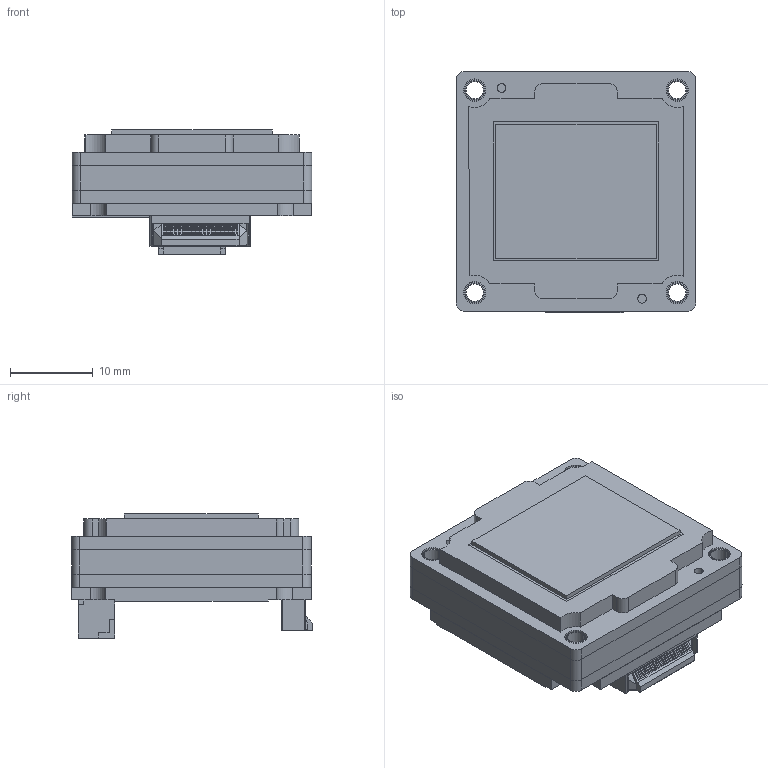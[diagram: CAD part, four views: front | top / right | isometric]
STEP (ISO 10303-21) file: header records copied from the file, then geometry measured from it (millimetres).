
FILE_DESCRIPTION (( 'STEP AP214' ), '1' );
FILE_NAME ('BFS-U3-50S4M(C)-BD2.STEP', '2023-11-27T19:33:09', ( '' ), ( '' ), 'SwSTEP 2.0', 'SolidWorks 2020', '' );
FILE_SCHEMA (( 'AUTOMOTIVE_DESIGN' ));
Length unit declared in the file: millimetre
Products named in the file (1): BFS-U3-50S4M(C)-BD2
Bounding box: 29 x 29.14 x 15.03 mm (x, y, z)
Surface area: 13140.4 mm2 (no closed solid volume)
Topology: 0 solids, 23 shells, 1140 faces, 3072 edges, 2024 vertices
Faces by surface type: plane 886, cylinder 222, cone 24, bspline 8
Entity records: 48546 total; most frequent: CARTESIAN_POINT 7141, ORIENTED_EDGE 6140, DIRECTION 5756, EDGE_CURVE 3072, VECTOR 2574, LINE 2574, VERTEX_POINT 2024, AXIS2_PLACEMENT_3D 1591
